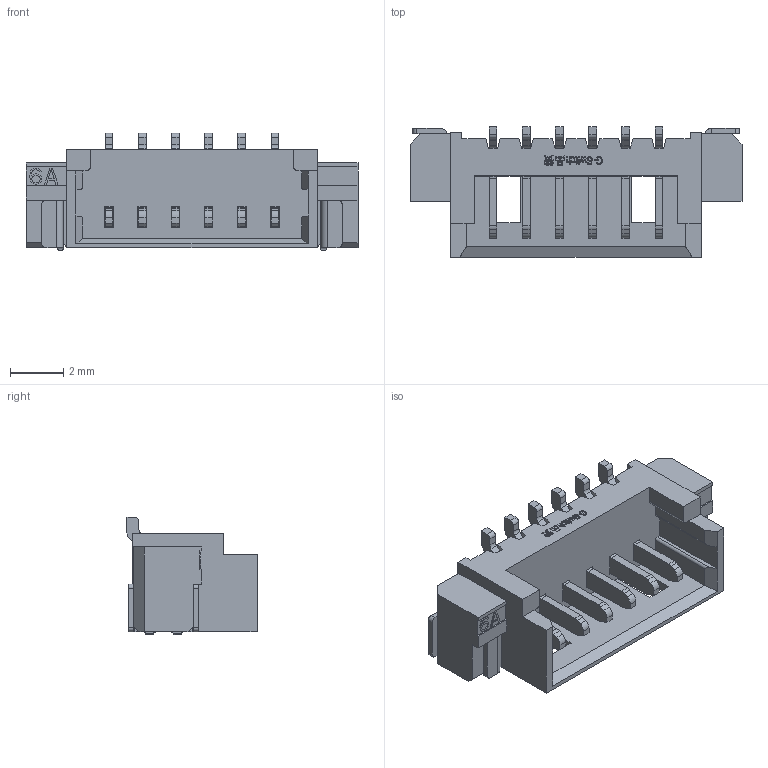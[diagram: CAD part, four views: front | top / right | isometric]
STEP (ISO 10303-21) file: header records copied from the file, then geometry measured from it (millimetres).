
FILE_DESCRIPTION (( 'STEP AP203' ), '1' );
FILE_NAME ('GT-A1251WVS1-106SBT01.STEP', '2026-07-04T08:40:31', ( '' ), ( '' ), 'SwSTEP 2.0', 'SolidWorks 2020', '' );
FILE_SCHEMA (( 'CONFIG_CONTROL_DESIGN' ));
Length unit declared in the file: millimetre
Products named in the file (1): GT-A1251WVS1-106SBT01
Bounding box: 12.5 x 4.9 x 4.41 mm (x, y, z)
Surface area: 370.4 mm2 (no closed solid volume)
Topology: 0 solids, 2 shells, 890 faces, 2672 edges, 1750 vertices
Faces by surface type: plane 626, cylinder 193, bspline 71
Entity records: 33797 total; most frequent: CARTESIAN_POINT 10222, ORIENTED_EDGE 5336, DIRECTION 4281, EDGE_CURVE 2672, VECTOR 1991, LINE 1991, VERTEX_POINT 1750, AXIS2_PLACEMENT_3D 1145
